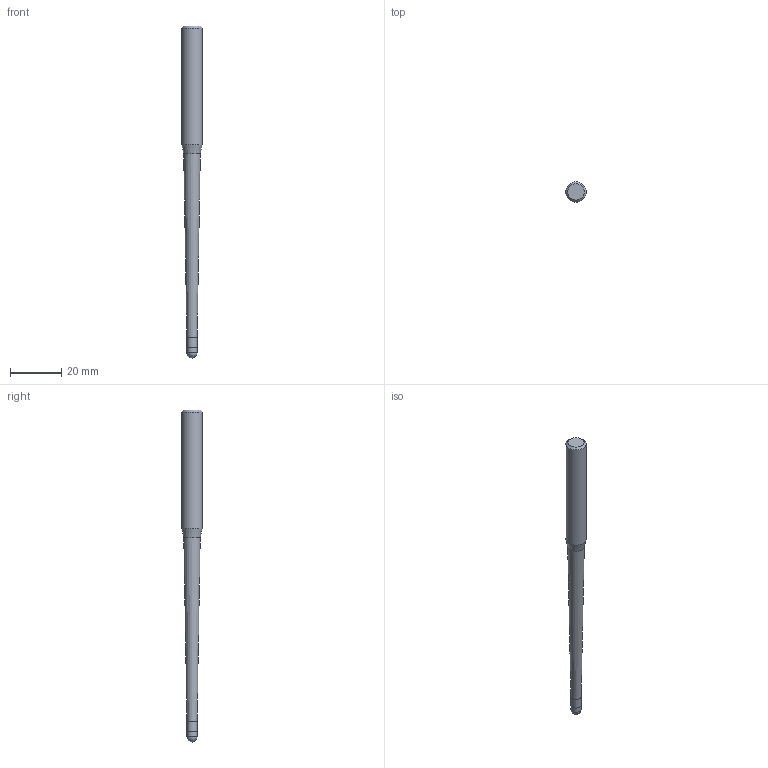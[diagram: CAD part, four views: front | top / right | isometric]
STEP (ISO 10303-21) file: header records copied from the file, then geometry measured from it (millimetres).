
FILE_DESCRIPTION((''),'2;1');
FILE_NAME('C:\Users\nsx150\AppData\Local\Temp\Mastercam 2021\SNAKH10GOD\TEMP.step','2021-10-21T13:33:33',(''),(''),'STEP Write','Mastercam 2021 ... CNC Software, Inc.','');
FILE_SCHEMA(('AUTOMOTIVE_DESIGN'));
Length unit declared in the file: millimetre
Products named in the file (1): None
Bounding box: 8 x 8 x 130 mm (x, y, z)
Volume: 4152.5 mm3; surface area: 2599.7 mm2
Topology: 2 solids, 2 shells, 10 faces, 16 edges, 9 vertices
Faces by surface type: plane 3, cylinder 3, cone 3, sphere 1
Full cylindrical faces by diameter (mm): 3.98 x1, 4 x1, 8 x1
Entity records: 232 total; most frequent: DIRECTION 40, CARTESIAN_POINT 28, AXIS2_PLACEMENT_3D 20, ORIENTED_EDGE 16, EDGE_LOOP 16, STYLED_ITEM 13, ADVANCED_FACE 10, FACE_BOUND 9
